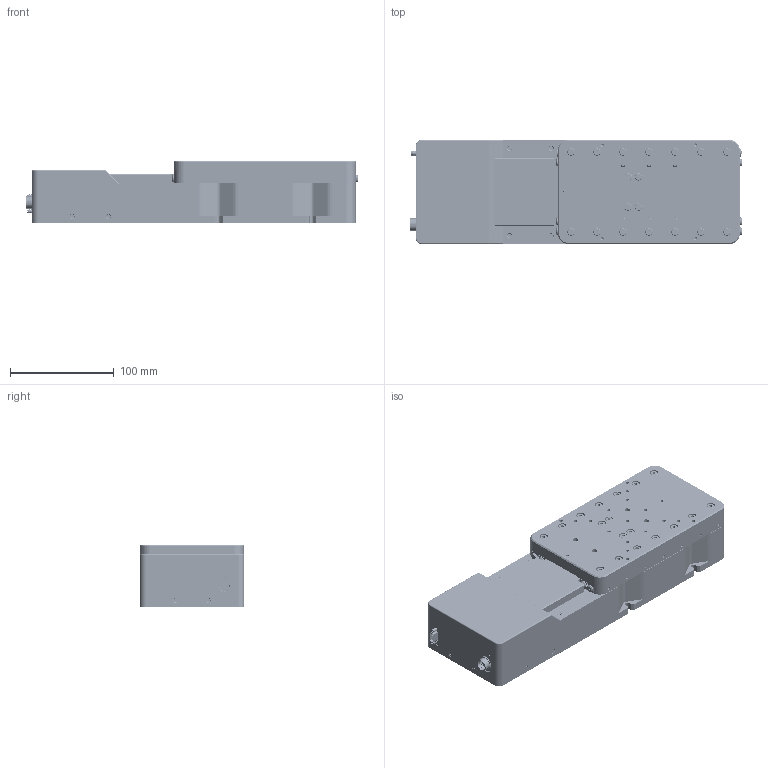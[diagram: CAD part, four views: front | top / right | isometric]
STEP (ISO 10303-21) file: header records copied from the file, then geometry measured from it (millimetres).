
FILE_DESCRIPTION(/* description */ (''),/* implementation_level */ '2;1');
FILE_NAME(/* name */ '\\fs301\share\Public_Div\生産本部_光学機器部\1_MEKA\4_開発\05_FDCB(2021年)\FDCB-015(CE stage 100-100)\M\量産図面\NFS100-100X\NFS100-100X_STP.stp',/* time_stamp */ '2022-04-20T18:31:54+09:00',/* author */ ('ta.murata'),/* organization */ (''),/* preprocessor_version */ 'ST-DEVELOPER v18.1',/* originating_system */ 'Autodesk Inventor 2021',/* authorisation */ '');
FILE_SCHEMA (('AUTOMOTIVE_DESIGN { 1 0 10303 214 3 1 1 }'));
Products named in the file (3): NFS1010-M02-22001-TS01; NFS1010-M02-22001-S18; NFS1010-M02-22001-S19
Assembly tree (2 placements, depth 2):
  NFS1010-M02-22001-TS01
    NFS1010-M02-22001-S18
    NFS1010-M02-22001-S19
Bounding box: 319.3 x 100 x 60 mm (x, y, z)
Volume: 1072455 mm3; surface area: 309802.3 mm2
Topology: 2 solids, 191 shells, 4163 faces, 10024 edges, 6476 vertices
Faces by surface type: plane 2610, cylinder 1069, cone 425, torus 53, bspline 4, sphere 2
Full cylindrical faces by diameter (mm): 0.8 x6, 1.45 x4, 1.47 x2, 1.567 x8, 1.6 x22, 1.7 x2, 1.8 x2, 2 x20, 2.1 x1, 2.113 x2, 2.2 x25, 2.459 x32, 2.5 x17, 2.6 x14, 3 x91, 3.1 x29, 3.2 x4, 3.242 x32, 3.3 x7, 3.4 x4, 3.5 x5, 3.7 x8, 3.8 x10, 3.9 x2, 4 x62, 4.134 x4, 4.3 x4, 4.5 x27, 5 x16, 5.5 x35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
Entity records: 123866 total; most frequent: CARTESIAN_POINT 23138, DIRECTION 21122, ORIENTED_EDGE 19904, EDGE_CURVE 9952, AXIS2_PLACEMENT_3D 7185, LINE 6752, VECTOR 6752, VERTEX_POINT 6476
